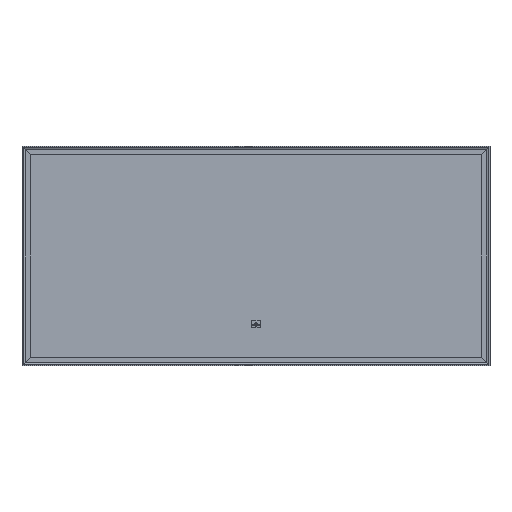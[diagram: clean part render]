
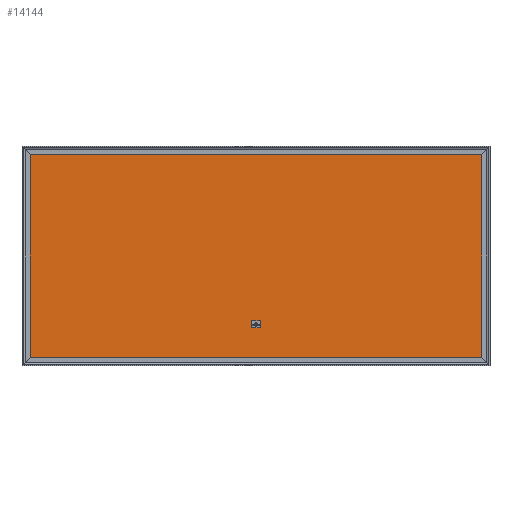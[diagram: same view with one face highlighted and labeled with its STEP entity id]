
A CAD part, front view. The second image highlights one B-rep face of the part: STEP entity #14144.
In plain terms, the highlighted planar face has unit normal (0, -1, 0).
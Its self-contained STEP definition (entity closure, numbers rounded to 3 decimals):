
#316=LINE('',#20332,#1891);
#324=LINE('',#20347,#1899);
#343=LINE('',#20427,#1918);
#583=LINE('',#21114,#2158);
#713=LINE('',#21451,#2288);
#929=LINE('',#21974,#2504);
#930=LINE('',#21976,#2505);
#931=LINE('',#21977,#2506);
#1891=VECTOR('',#16311,691.);
#1899=VECTOR('',#16323,691.);
#1918=VECTOR('',#16398,15.086);
#2158=VECTOR('',#17030,1542.);
#2288=VECTOR('',#17282,15.086);
#2504=VECTOR('',#17804,23.571);
#2505=VECTOR('',#17807,1542.);
#2506=VECTOR('',#17808,23.571);
#3573=PLANE('',#15188);
#3960=FACE_BOUND('',#5316,.T.);
#4428=FACE_OUTER_BOUND('',#5315,.T.);
#5315=EDGE_LOOP('',(#11548,#11549,#11550,#11551));
#5316=EDGE_LOOP('',(#11552,#11553,#11554,#11555,#11556,#11557,#11558,#11559));
#5858=CIRCLE('',#14775,4.714);
#5860=CIRCLE('',#14779,4.714);
#5969=CIRCLE('',#15032,4.714);
#5971=CIRCLE('',#15036,4.714);
#6357=VERTEX_POINT('',#20328);
#6359=VERTEX_POINT('',#20331);
#6362=VERTEX_POINT('',#20341);
#6364=VERTEX_POINT('',#20345);
#6393=VERTEX_POINT('',#20417);
#6394=VERTEX_POINT('',#20418);
#6397=VERTEX_POINT('',#20426);
#6399=VERTEX_POINT('',#20432);
#6750=VERTEX_POINT('',#21441);
#6751=VERTEX_POINT('',#21442);
#6754=VERTEX_POINT('',#21450);
#6756=VERTEX_POINT('',#21456);
#7784=EDGE_CURVE('',#6357,#6359,#316,.T.);
#7792=EDGE_CURVE('',#6364,#6362,#324,.T.);
#7823=EDGE_CURVE('',#6393,#6394,#5858,.T.);
#7827=EDGE_CURVE('',#6394,#6397,#343,.T.);
#7830=EDGE_CURVE('',#6397,#6399,#5860,.T.);
#8147=EDGE_CURVE('',#6362,#6357,#583,.T.);
#8311=EDGE_CURVE('',#6750,#6751,#5969,.T.);
#8315=EDGE_CURVE('',#6751,#6754,#713,.T.);
#8318=EDGE_CURVE('',#6754,#6756,#5971,.T.);
#8551=EDGE_CURVE('',#6399,#6750,#929,.T.);
#8552=EDGE_CURVE('',#6359,#6364,#930,.T.);
#8553=EDGE_CURVE('',#6756,#6393,#931,.T.);
#11548=ORIENTED_EDGE('',*,*,#8552,.F.);
#11549=ORIENTED_EDGE('',*,*,#7784,.F.);
#11550=ORIENTED_EDGE('',*,*,#8147,.F.);
#11551=ORIENTED_EDGE('',*,*,#7792,.F.);
#11552=ORIENTED_EDGE('',*,*,#8551,.T.);
#11553=ORIENTED_EDGE('',*,*,#8311,.T.);
#11554=ORIENTED_EDGE('',*,*,#8315,.T.);
#11555=ORIENTED_EDGE('',*,*,#8318,.T.);
#11556=ORIENTED_EDGE('',*,*,#8553,.T.);
#11557=ORIENTED_EDGE('',*,*,#7823,.T.);
#11558=ORIENTED_EDGE('',*,*,#7827,.T.);
#11559=ORIENTED_EDGE('',*,*,#7830,.T.);
#14144=ADVANCED_FACE('',(#4428,#3960),#3573,.F.);
#14775=AXIS2_PLACEMENT_3D('',#20419,#16390,#16391);
#14779=AXIS2_PLACEMENT_3D('',#20433,#16403,#16404);
#15032=AXIS2_PLACEMENT_3D('',#21443,#17274,#17275);
#15036=AXIS2_PLACEMENT_3D('',#21457,#17287,#17288);
#15188=AXIS2_PLACEMENT_3D('',#21975,#17805,#17806);
#16311=DIRECTION('',(0.,0.,-1.));
#16323=DIRECTION('',(0.,0.,1.));
#16390=DIRECTION('center_axis',(0.,1.,0.));
#16391=DIRECTION('ref_axis',(1.,0.,0.));
#16398=DIRECTION('',(0.,0.,-1.));
#16403=DIRECTION('center_axis',(0.,1.,0.));
#16404=DIRECTION('ref_axis',(0.,0.,-1.));
#17030=DIRECTION('',(1.,0.,0.));
#17274=DIRECTION('center_axis',(0.,1.,0.));
#17275=DIRECTION('ref_axis',(-1.,0.,0.));
#17282=DIRECTION('',(0.,0.,1.));
#17287=DIRECTION('center_axis',(0.,1.,0.));
#17288=DIRECTION('ref_axis',(0.,0.,1.));
#17804=DIRECTION('',(-1.,0.,0.));
#17805=DIRECTION('center_axis',(0.,1.,0.));
#17806=DIRECTION('ref_axis',(-1.,0.,0.));
#17807=DIRECTION('',(-1.,0.,0.));
#17808=DIRECTION('',(1.,0.,0.));
#20328=CARTESIAN_POINT('',(771.,5.75,720.5));
#20331=CARTESIAN_POINT('',(771.,5.75,29.5));
#20332=CARTESIAN_POINT('',(771.,5.75,548.));
#20341=CARTESIAN_POINT('',(-771.,5.75,720.5));
#20345=CARTESIAN_POINT('',(-771.,5.75,29.5));
#20347=CARTESIAN_POINT('',(-771.,5.75,202.));
#20417=CARTESIAN_POINT('',(11.786,5.75,153.514));
#20418=CARTESIAN_POINT('',(16.5,5.75,148.8));
#20419=CARTESIAN_POINT('Origin',(11.786,5.75,148.8));
#20426=CARTESIAN_POINT('',(16.5,5.75,133.714));
#20427=CARTESIAN_POINT('',(16.5,5.75,261.9));
#20432=CARTESIAN_POINT('',(11.786,5.75,129.));
#20433=CARTESIAN_POINT('Origin',(11.786,5.75,133.714));
#21114=CARTESIAN_POINT('',(214.25,5.75,720.5));
#21441=CARTESIAN_POINT('',(-11.786,5.75,129.));
#21442=CARTESIAN_POINT('',(-16.5,5.75,133.714));
#21443=CARTESIAN_POINT('Origin',(-11.786,5.75,133.714));
#21450=CARTESIAN_POINT('',(-16.5,5.75,148.8));
#21451=CARTESIAN_POINT('',(-16.5,5.75,254.357));
#21456=CARTESIAN_POINT('',(-11.786,5.75,153.514));
#21457=CARTESIAN_POINT('Origin',(-11.786,5.75,148.8));
#21974=CARTESIAN_POINT('',(5.893,5.75,129.));
#21975=CARTESIAN_POINT('Origin',(0.,5.75,
375.));
#21976=CARTESIAN_POINT('',(585.75,5.75,29.5));
#21977=CARTESIAN_POINT('',(-5.893,5.75,153.514));
